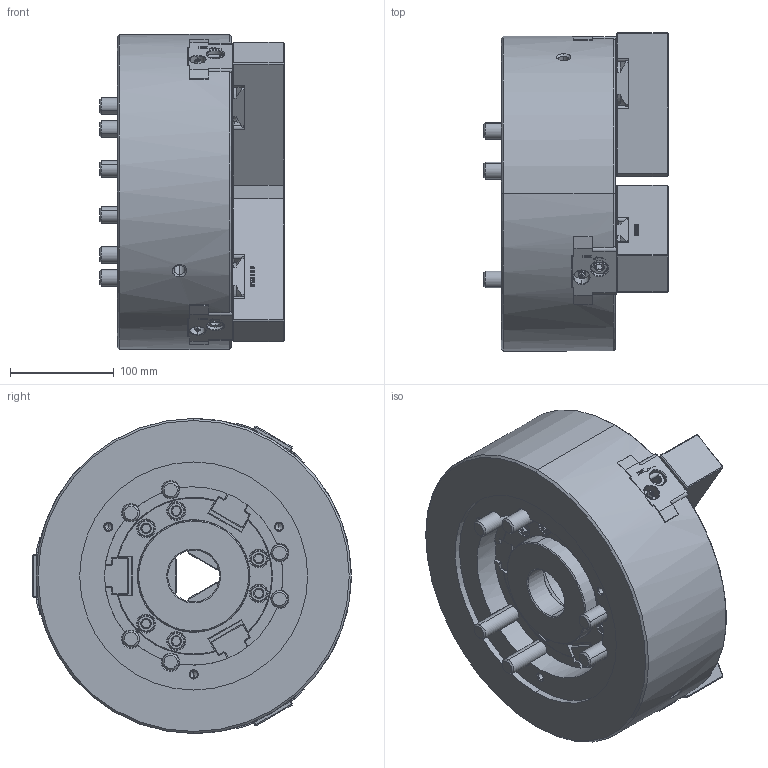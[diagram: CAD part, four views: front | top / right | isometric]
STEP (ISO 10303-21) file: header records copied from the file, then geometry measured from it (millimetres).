
FILE_DESCRIPTION (( 'STEP AP214' ), '1' );
FILE_NAME ('DT1_QB312_OUTSIDE_VIEW_UC.STEP', '2025-12-05T07:11:48', ( '' ), ( '' ), 'SwSTEP 2.0', 'SolidWorks 2022', '' );
FILE_SCHEMA (( 'AUTOMOTIVE_DESIGN' ));
Length unit declared in the file: millimetre
Products named in the file (7): DT1_QB312_DRAWNUT^DT1_QB312; DT1_QB312_BASE^DT1_QB312; DT1_QB312_M16x110^DT1_QB312; DT1_QB312_M6x10^DT1_QB312; DT1_QB312_OUTSIDE_VIEW_UC; DT1_QB312_SOFTJAW^DT1_QB312; DT1_QB312_COVER^DT1_QB312
Assembly tree (15 placements, depth 2):
  DT1_QB312_OUTSIDE_VIEW_UC
    DT1_QB312_SOFTJAW^DT1_QB312  x3
    DT1_QB312_DRAWNUT^DT1_QB312
    DT1_QB312_COVER^DT1_QB312
    DT1_QB312_M6x10^DT1_QB312  x3
    DT1_QB312_M16x110^DT1_QB312  x6
    DT1_QB312_BASE^DT1_QB312
Bounding box: 178 x 307.27 x 304 mm (x, y, z)
Volume: 7673849 mm3; surface area: 565314.2 mm2
Topology: 15 solids, 18 shells, 2695 faces, 7034 edges, 4507 vertices
Faces by surface type: plane 1289, bspline 482, cylinder 440, cone 406, torus 66, sphere 12
Entity records: 78666 total; most frequent: CARTESIAN_POINT 28389, ORIENTED_EDGE 11052, DIRECTION 9172, EDGE_CURVE 5526, VERTEX_POINT 3570, AXIS2_PLACEMENT_3D 3059, LINE 3054, VECTOR 3054
